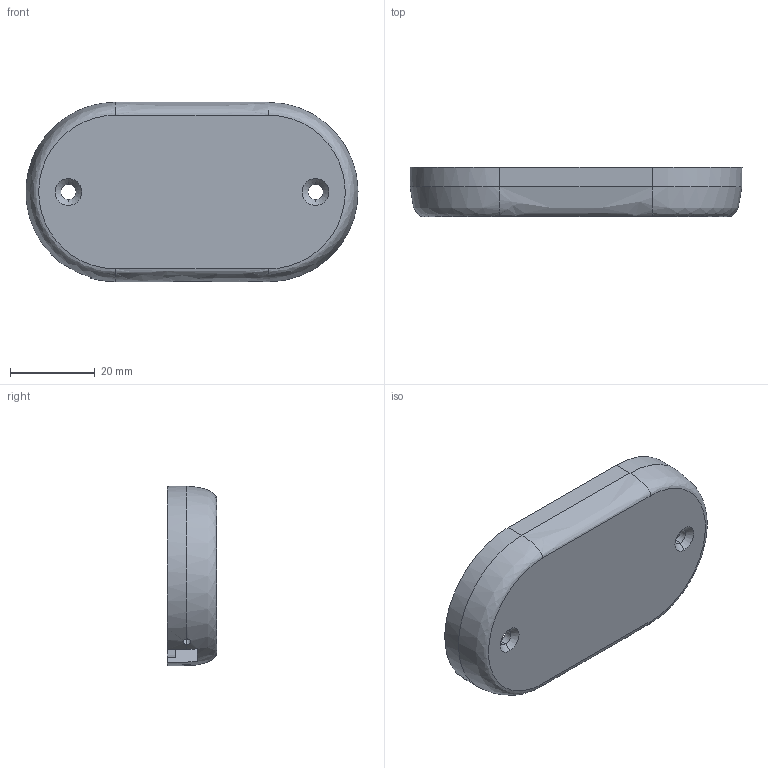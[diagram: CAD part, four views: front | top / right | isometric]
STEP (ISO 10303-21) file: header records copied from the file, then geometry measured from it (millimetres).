
FILE_DESCRIPTION (( 'STEP AP214' ), '1' );
FILE_NAME ('Case_PartA.STEP', '2025-02-14T20:39:45', ( '' ), ( '' ), 'SwSTEP 2.0', 'SolidWorks 2019', '' );
FILE_SCHEMA (( 'AUTOMOTIVE_DESIGN' ));
Length unit declared in the file: millimetre
Products named in the file (1): Case_PartA
Bounding box: 78.19 x 11.6 x 42.2 mm (x, y, z)
Volume: 9734.1 mm3; surface area: 9659.1 mm2
Topology: 1 solids, 1 shells, 112 faces, 301 edges, 189 vertices
Faces by surface type: cylinder 46, plane 43, torus 9, cone 5, bspline 5, sphere 4
Entity records: 4324 total; most frequent: CARTESIAN_POINT 1523, ORIENTED_EDGE 602, DIRECTION 566, EDGE_CURVE 301, AXIS2_PLACEMENT_3D 209, VERTEX_POINT 189, LINE 148, VECTOR 148
